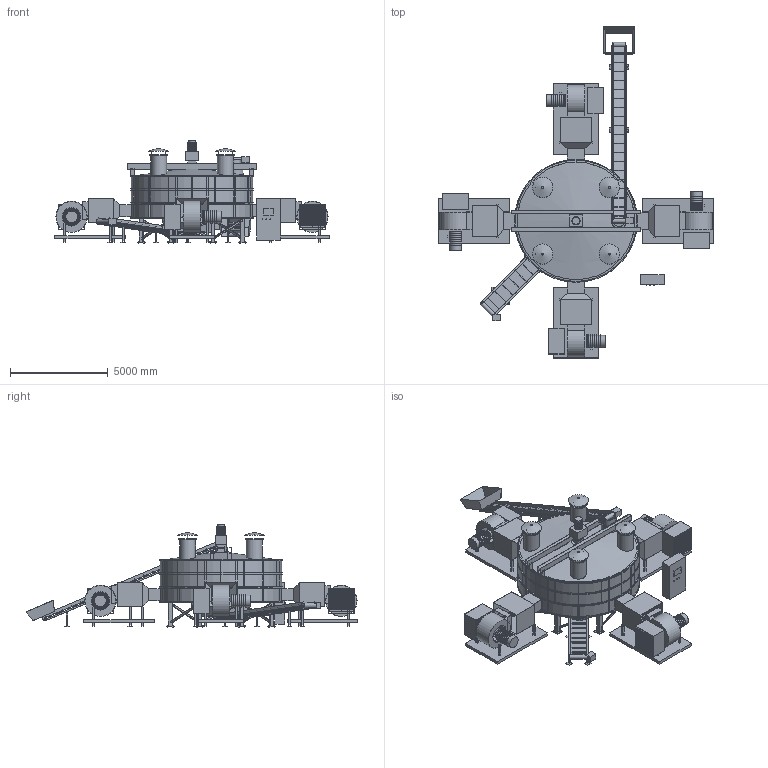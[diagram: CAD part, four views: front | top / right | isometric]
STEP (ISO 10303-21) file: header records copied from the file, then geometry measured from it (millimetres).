
FILE_DESCRIPTION(('Open CASCADE Model'),'2;1');
FILE_NAME('Open CASCADE Shape Model','2026-10-23T21:23:47',('Author'),( 'Open CASCADE'),'Open CASCADE STEP processor 7.9','Open CASCADE 7.9' ,'Unknown');
FILE_SCHEMA(('AUTOMOTIVE_DESIGN { 1 0 10303 214 1 1 1 1 }'));
Length unit declared in the file: millimetre
Products named in the file (565): FK10E_R04_Conveyors_Preliminary_mm; 01_contact_cylinder_D6000_t3_H1400; J00_jacket_t1p5; J01_jacket_t1p5; J02_jacket_t1p5; J03_jacket_t1p5; J04_jacket_t1p5; J05_jacket_t1p5; J06_jacket_t1p5; J07_jacket_t1p5; J08_jacket_t1p5; J09_jacket_t1p5; J10_jacket_t1p5; J11_jacket_t1p5; J12_jacket_t1p5; J13_jacket_t1p5; J14_jacket_t1p5; J15_jacket_t1p5; 02_perforated_floor_ENVELOPE_D500_D6000_H400_t4; 03_four_port_air_plenum_D6200_H750; floor_support_inner_ring; floor_support_outer_ring; floor_radial_RHS150x100x8_0; floor_radial_RHS150x100x8_1; floor_radial_RHS150x100x8_2; floor_radial_RHS150x100x8_3; floor_radial_RHS150x100x8_4; floor_radial_RHS150x100x8_5; floor_radial_RHS150x100x8_6; floor_radial_RHS150x100x8_7; floor_radial_RHS150x100x8_8; floor_radial_RHS150x100x8_9; floor_radial_RHS150x100x8_10; floor_radial_RHS150x100x8_11; 04_plenum_bottom_t8; 05_product_outlet_sealed_tube_D500; 06_vented_roof; EX0_DN800_stack; EX0_flange; EX0_rainhood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
Assembly tree (564 placements, depth 2):
  FK10E_R04_Conveyors_Preliminary_mm
    01_contact_cylinder_D6000_t3_H1400
    J00_jacket_t1p5
    J01_jacket_t1p5
    J02_jacket_t1p5
    J03_jacket_t1p5
    J04_jacket_t1p5
    J05_jacket_t1p5
    J06_jacket_t1p5
    J07_jacket_t1p5
    J08_jacket_t1p5
    J09_jacket_t1p5
    J10_jacket_t1p5
    J11_jacket_t1p5
    J12_jacket_t1p5
    J13_jacket_t1p5
    J14_jacket_t1p5
    J15_jacket_t1p5
    02_perforated_floor_ENVELOPE_D500_D6000_H400_t4
    03_four_port_air_plenum_D6200_H750
    floor_support_inner_ring
    floor_support_outer_ring
    floor_radial_RHS150x100x8_0
    floor_radial_RHS150x100x8_1
    floor_radial_RHS150x100x8_2
    floor_radial_RHS150x100x8_3
    floor_radial_RHS150x100x8_4
    floor_radial_RHS150x100x8_5
    floor_radial_RHS150x100x8_6
    floor_radial_RHS150x100x8_7
    floor_radial_RHS150x100x8_8
    floor_radial_RHS150x100x8_9
    floor_radial_RHS150x100x8_10
    floor_radial_RHS150x100x8_11
    04_plenum_bottom_t8
    05_product_outlet_sealed_tube_D500
    06_vented_roof
    EX0_DN800_stack
    EX0_flange
    EX0_rainhood
    EX0_hood_stay_-360
    EX0_hood_stay_360
    EX1_DN800_stack
    EX1_flange
    EX1_rainhood
    EX1_hood_stay_-360
    EX1_hood_stay_360
    EX2_DN800_stack
    EX2_flange
    EX2_rainhood
    EX2_hood_stay_-360
    EX2_hood_stay_360
    EX3_DN800_stack
    EX3_flange
    EX3_rainhood
    EX3_hood_stay_-360
    EX3_hood_stay_360
    FILL_D800_neck
    body_band_1250
    body_band_1980
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Bounding box: 14000 x 16951.55 x 5247 mm (x, y, z)
Volume: 11636971421.9 mm3; surface area: 916084015.4 mm2
Topology: 564 solids, 564 shells, 3534 faces, 7012 edges, 4674 vertices
Faces by surface type: plane 3020, cylinder 454, bspline 48, cone 12
Full cylindrical faces by diameter (mm): 14 x73, 16 x11, 18 x12, 24 x32, 28 x48, 32 x1, 35 x18, 48 x32, 50 x3, 60 x6, 90 x21, 180 x1, 184 x2, 230 x4, 300 x4, 360 x1, 380 x11, 400 x1, 420 x10, 500 x2, 512 x1, 560 x1, 572 x1, 580 x1, 600 x36, 650 x32, 660 x1, 800 x15, 808 x5, 840 x1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
Entity records: 202025 total; most frequent: CARTESIAN_POINT 37657, DIRECTION 29460, LINE 18756, VECTOR 18756, ORIENTED_EDGE 14024, PCURVE 14024, DEFINITIONAL_REPRESENTATION 14024, EDGE_CURVE 7012
